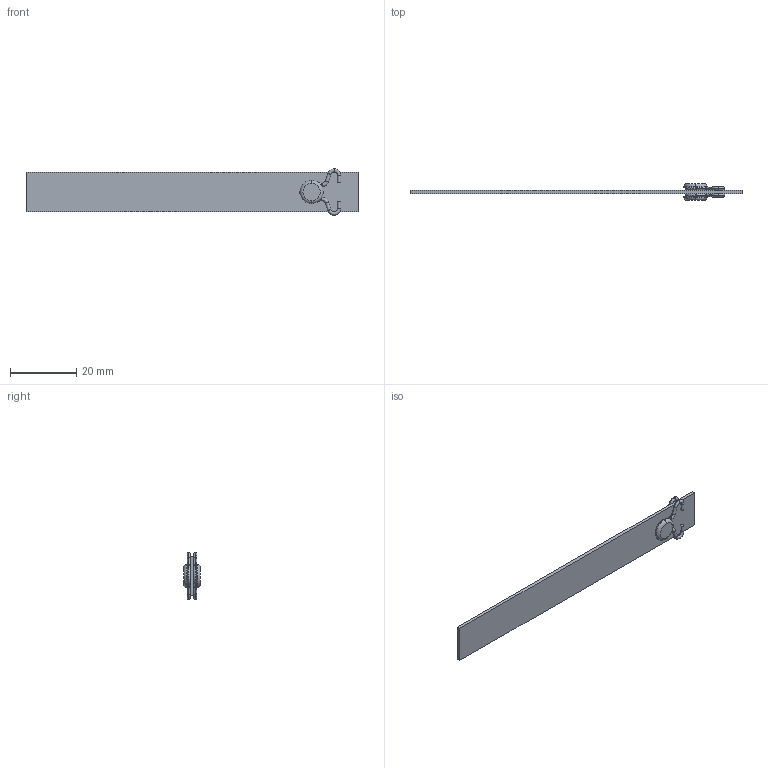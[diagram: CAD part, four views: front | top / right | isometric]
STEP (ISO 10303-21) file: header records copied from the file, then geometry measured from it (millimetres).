
FILE_DESCRIPTION (( 'STEP AP203' ), '1' );
FILE_NAME ('RLA-12x100.STEP', '2015-12-10T15:52:20', ( 'Balzi' ), ( '' ), 'SwSTEP 2.0', 'SolidWorks 2015', '' );
FILE_SCHEMA (( 'CONFIG_CONTROL_DESIGN' ));
Length unit declared in the file: millimetre
Products named in the file (1): RLA-12x100
Bounding box: 100 x 5 x 13.99 mm (x, y, z)
Volume: 1298.3 mm3; surface area: 2987.5 mm2
Topology: 5 solids, 5 shells, 84 faces, 162 edges, 88 vertices
Faces by surface type: torus 40, cylinder 30, plane 14
Entity records: 2199 total; most frequent: DIRECTION 452, CARTESIAN_POINT 335, ORIENTED_EDGE 324, AXIS2_PLACEMENT_3D 205, EDGE_CURVE 162, CIRCLE 120, VERTEX_POINT 88, EDGE_LOOP 86
